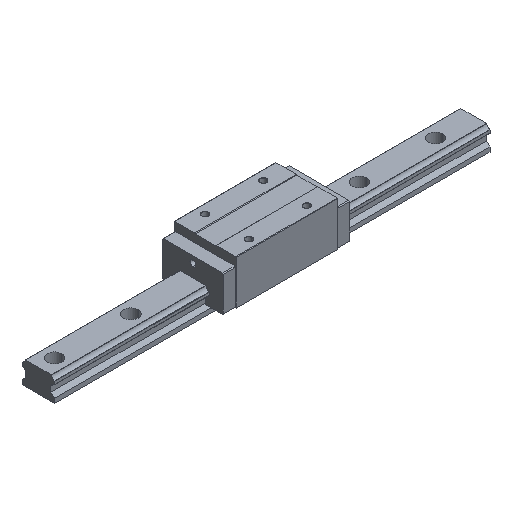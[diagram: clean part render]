
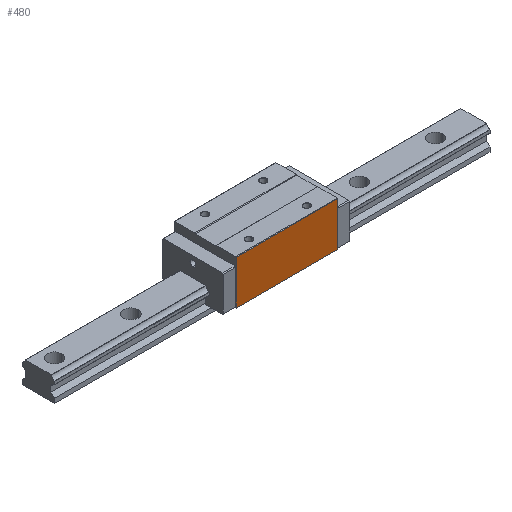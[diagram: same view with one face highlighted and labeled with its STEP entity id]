
A CAD part, isometric view. The second image highlights one B-rep face of the part: STEP entity #480.
In plain terms, the highlighted planar face has unit normal (0, -1, 0).
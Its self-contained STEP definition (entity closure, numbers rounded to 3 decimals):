
#2 = DIRECTION ( 'NONE',  ( 0., 0., -1. ) ) ;
#177 = EDGE_LOOP ( 'NONE', ( #3575, #4789, #4004, #2398 ) ) ;
#205 = PLANE ( 'NONE',  #717 ) ;
#480 = ADVANCED_FACE ( 'NONE', ( #2265 ), #205, .F. ) ;
#521 = CARTESIAN_POINT ( 'NONE',  ( 70., -42.5, 69.5 ) ) ;
#625 = DIRECTION ( 'NONE',  ( 1., 0., 0. ) ) ;
#716 = CARTESIAN_POINT ( 'NONE',  ( 70., -42.5, 8.9 ) ) ;
#717 = AXIS2_PLACEMENT_3D ( 'NONE', #2209, #1838, #625 ) ;
#1064 = CARTESIAN_POINT ( 'NONE',  ( -70., -42.5, 69.5 ) ) ;
#1089 = DIRECTION ( 'NONE',  ( -1., 0., 0. ) ) ;
#1497 = EDGE_CURVE ( 'NONE', #1831, #4186, #4072, .T. ) ;
#1513 = EDGE_CURVE ( 'NONE', #4677, #2135, #2823, .T. ) ;
#1831 = VERTEX_POINT ( 'NONE', #1064 ) ;
#1838 = DIRECTION ( 'NONE',  ( 0., 1., 0. ) ) ;
#2034 = EDGE_CURVE ( 'NONE', #4677, #1831, #2597, .T. ) ;
#2037 = CARTESIAN_POINT ( 'NONE',  ( 70., -42.5, 70. ) ) ;
#2135 = VERTEX_POINT ( 'NONE', #4135 ) ;
#2209 = CARTESIAN_POINT ( 'NONE',  ( 70., -42.5, 70. ) ) ;
#2212 = CARTESIAN_POINT ( 'NONE',  ( 70., -42.5, 69.5 ) ) ;
#2265 = FACE_OUTER_BOUND ( 'NONE', #177, .T. ) ;
#2398 = ORIENTED_EDGE ( 'NONE', *, *, #3113, .F. ) ;
#2597 = LINE ( 'NONE', #521, #5004 ) ;
#2622 = VECTOR ( 'NONE', #1089, 1000. ) ;
#2791 = VECTOR ( 'NONE', #2, 1000. ) ;
#2823 = LINE ( 'NONE', #2037, #2791 ) ;
#2964 = VECTOR ( 'NONE', #4409, 1000. ) ;
#3113 = EDGE_CURVE ( 'NONE', #2135, #4186, #4376, .T. ) ;
#3272 = CARTESIAN_POINT ( 'NONE',  ( -70., -42.5, 70. ) ) ;
#3575 = ORIENTED_EDGE ( 'NONE', *, *, #1513, .F. ) ;
#4004 = ORIENTED_EDGE ( 'NONE', *, *, #1497, .T. ) ;
#4072 = LINE ( 'NONE', #3272, #2964 ) ;
#4135 = CARTESIAN_POINT ( 'NONE',  ( 70., -42.5, 8.9 ) ) ;
#4186 = VERTEX_POINT ( 'NONE', #5073 ) ;
#4376 = LINE ( 'NONE', #716, #2622 ) ;
#4409 = DIRECTION ( 'NONE',  ( 0., 0., -1. ) ) ;
#4617 = DIRECTION ( 'NONE',  ( -1., 0., 0. ) ) ;
#4677 = VERTEX_POINT ( 'NONE', #2212 ) ;
#4789 = ORIENTED_EDGE ( 'NONE', *, *, #2034, .T. ) ;
#5004 = VECTOR ( 'NONE', #4617, 1000. ) ;
#5073 = CARTESIAN_POINT ( 'NONE',  ( -70., -42.5, 8.9 ) ) ;
